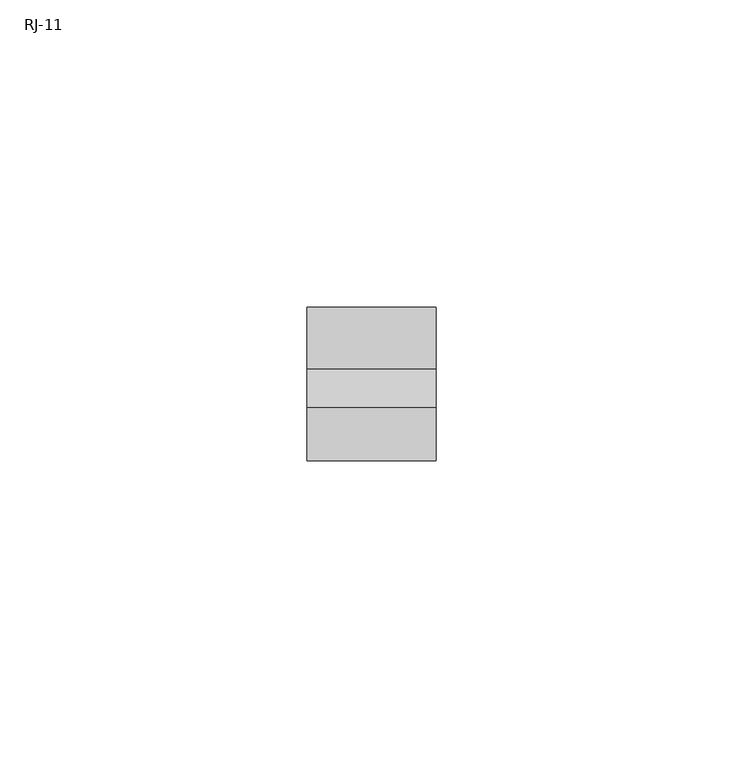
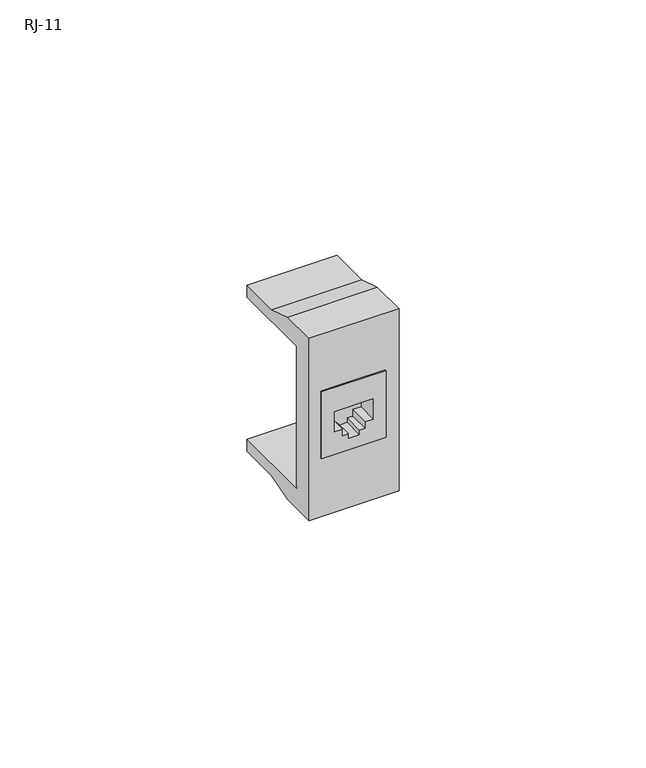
"""IFC4 building model written with IfcOpenShell, lengths in millimetres: proxy geometry, КНС_РозеткиТелефонные_DKC : RJ-11."""

from ifc_helpers import new_model, si_unit, origin, place, context, project, spatial, faceted_brep, source, transform, mapped, element, save


def rj_11_aab4ea7d(model_context):
    return source(origin(), model_context, "Body", "Brep", [
        faceted_brep([(7.5, -25.0, 8.25), (-7.5, -25.0, 8.25), (-7.5, -25.0, -8.25), (7.5, -25.0, -8.25), (-2.6200027, -25.0, -2.65625), (-4.5217014, -25.0, -2.65625), (-4.5217014, -25.0, 2.3669591), (4.5217014, -25.0, 2.3669591), (4.5217014, -25.0, -2.65625), (2.6200027, -25.0, -2.65625), (2.6200027, -25.0, -4.2832694), (1.2532329, -25.0, -4.2832694), (1.2532329, -25.0, -5.3872156), (-1.2532329, -25.0, -5.3872156), (-1.2532329, -25.0, -4.2832694), (-2.6200027, -25.0, -4.2832694), (7.5, -16.2913439, 8.25), (7.5, -16.2913439, -8.25), (-7.5, -16.2913439, -8.25), (-7.5, -16.2913439, 8.25), (-4.5217014, -20.0, -2.65625), (-2.6200027, -20.0, -2.65625), (-2.6200027, -20.0, -4.2832694), (-1.2532329, -20.0, -4.2832694), (-1.2532329, -20.0, -5.3872156), (1.2532329, -20.0, -5.3872156), (1.2532329, -20.0, -4.2832694), (2.6200027, -20.0, -4.2832694), (2.6200027, -20.0, -2.65625), (4.5217014, -20.0, -2.65625), (4.5217014, -20.0, 2.3669591), (-4.5217014, -20.0, 2.3669591)], [[[0, 1, 2, 3], [4, 5, 6, 7, 8, 9, 10, 11, 12, 13, 14, 15]], [[16, 17, 18, 19]], [[1, 0, 16, 19]], [[2, 1, 19, 18]], [[3, 2, 18, 17]], [[0, 3, 17, 16]], [[20, 21, 22, 23, 24, 25, 26, 27, 28, 29, 30, 31]], [[21, 20, 5, 4]], [[22, 21, 4, 15]], [[23, 22, 15, 14]], [[24, 23, 14, 13]], [[25, 24, 13, 12]], [[26, 25, 12, 11]], [[27, 26, 11, 10]], [[28, 27, 10, 9]], [[29, 28, 9, 8]], [[30, 29, 8, 7]], [[31, 30, 7, 6]], [[20, 31, 6, 5]]]),
        faceted_brep([(-10.5, -20.0, -17.5), (10.5, -20.0, -17.5), (10.5, 0.0, -17.5), (-10.5, 0.0, -17.5), (10.5, -20.0, 17.5), (-10.5, -20.0, 17.5), (-10.5, 0.0, 17.5), (10.5, 0.0, 17.5), (7.5, -20.0, -8.25), (7.5, -20.0, 8.25), (-7.5, -20.0, 8.25), (-7.5, -20.0, -8.25), (-10.5, -10.0, 20.5), (10.5, -10.0, 20.5), (10.5, 0.0, 20.5), (-10.5, 0.0, 20.5), (-10.5, -16.2913439, 22.5), (10.5, -16.2913439, 22.5), (10.5, -10.0, -20.5), (-10.5, -10.0, -20.5), (-10.5, 0.0, -20.5), (10.5, 0.0, -20.5), (10.5, -16.2913439, -22.5), (-10.5, -16.2913439, -22.5), (10.5, -25.0, 22.5), (-10.5, -25.0, 22.5), (-10.5, -25.0, -22.5), (10.5, -25.0, -22.5), (7.5, -25.0, 8.25), (7.5, -25.0, -8.25), (-7.5, -25.0, -8.25), (-7.5, -25.0, 8.25)], [[[0, 1, 2, 3]], [[4, 5, 6, 7]], [[1, 0, 5, 4], [8, 9, 10, 11]], [[12, 13, 14, 15]], [[13, 12, 16, 17]], [[18, 19, 20, 21]], [[19, 18, 22, 23]], [[24, 25, 26, 27], [28, 29, 30, 31]], [[14, 7, 6, 15]], [[2, 21, 20, 3]], [[25, 24, 17, 16]], [[26, 25, 16, 12, 15, 6, 5, 0, 3, 20, 19, 23]], [[27, 26, 23, 22]], [[24, 27, 22, 18, 21, 2, 1, 4, 7, 14, 13, 17]], [[29, 28, 9, 8]], [[30, 29, 8, 11]], [[31, 30, 11, 10]], [[28, 31, 10, 9]]]),
    ])


if __name__ == "__main__":
    model = new_model("IFC4")
    model_context = context("Model", 3, world=origin())
    ifc_project = project(units=[si_unit("LENGTHUNIT", "METRE", prefix="MILLI")], contexts=[model_context])
    site = spatial("IfcSite", under=ifc_project)
    building = spatial("IfcBuilding", under=site)
    placement = place(None, origin())
    rj_11_shape = rj_11_aab4ea7d(model_context)
    element("IfcBuildingElementProxy", 1, Name="КНС_РозеткиТелефонные_DKC : RJ-11", ObjectType="КНС_РозеткиТелефонные_DKC : RJ-11", at=placement, inside=building, context=model_context, shape_type="MappedRepresentation", body=[
        mapped(rj_11_shape, transform((0.0, 0.0, 0.0), x_axis=(1.0, 0.0, 0.0), y_axis=(0.0, 1.0, 0.0), z_axis=(0.0, 0.0, 1.0))),
    ])
    save(model, "model.ifc")
